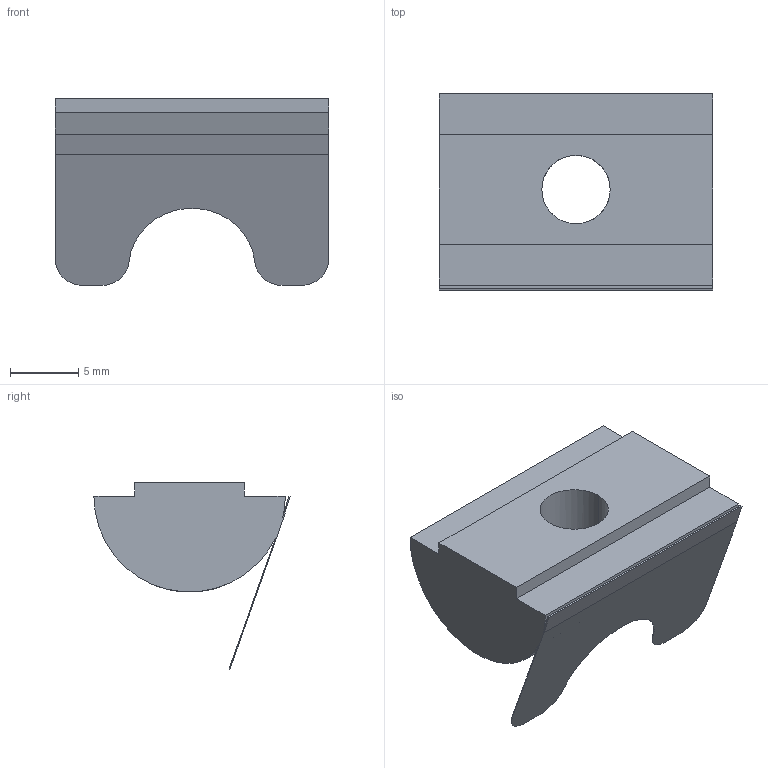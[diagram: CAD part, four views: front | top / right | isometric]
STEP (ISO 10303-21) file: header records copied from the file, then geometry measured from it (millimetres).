
FILE_DESCRIPTION (( 'STEP AP203' ), '1' );
FILE_NAME ('5259.STEP', '2016-04-16T14:17:51', ( '' ), ( '' ), 'SwSTEP 2.0', 'SolidWorks 2014', '' );
FILE_SCHEMA (( 'CONFIG_CONTROL_DESIGN' ));
Length unit declared in the file: millimetre
Products named in the file (1): 5259
Bounding box: 20 x 14.36 x 13.66 mm (x, y, z)
Volume: 1556.3 mm3; surface area: 1390.3 mm2
Topology: 1 solids, 1 shells, 23 faces, 63 edges, 42 vertices
Faces by surface type: plane 14, cylinder 9
Entity records: 874 total; most frequent: CARTESIAN_POINT 193, ORIENTED_EDGE 126, DIRECTION 125, EDGE_CURVE 63, VECTOR 45, LINE 45, VERTEX_POINT 42, AXIS2_PLACEMENT_3D 40
